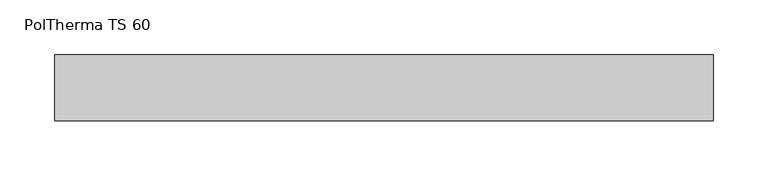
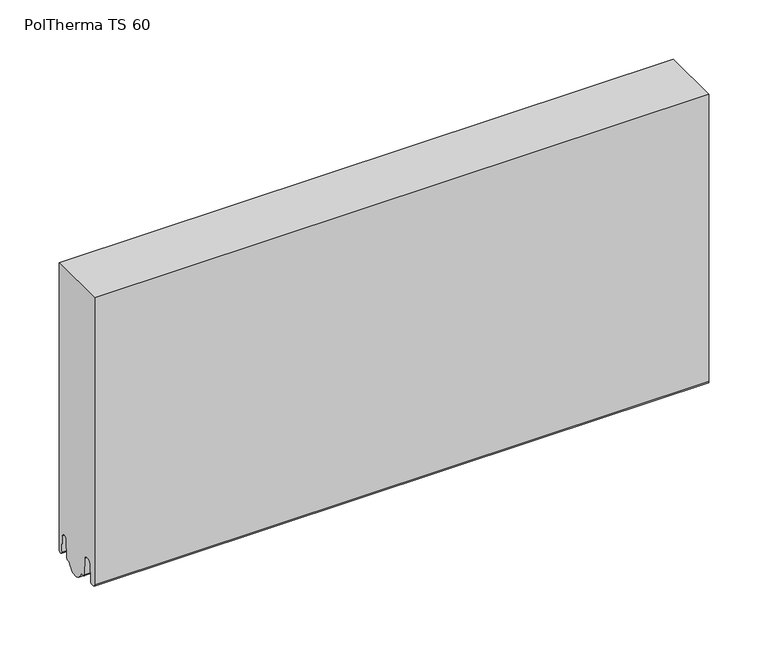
"""IFC4 building model written with IfcOpenShell, lengths in millimetres: plate geometry, Europanels_Poltherma TS_Hz : PolTherma TS 60."""

from ifc_helpers import new_model, si_unit, point, frame, frame_2d, origin, place, context, project, spatial, polyline, circle_curve, trimmed, segment, composite_curve, outline, extrude, source, transform, mapped, element, save


def poltherma_ts_60_3e408c3d(model_context):
    return source(origin(), model_context, "Body", "SweptSolid", [
        extrude(outline(composite_curve([segment(polyline([(-30.0, 300.0), (30.0, 300.0), (30.0, 3.8814338)]), True, "CONTINUOUS"), segment(trimmed(circle_curve(frame_2d((27.6314591, 3.8814338)), 2.3685409), [point((30.0, 3.8814338))], [point((25.2663769, 3.7534806))], False, "CARTESIAN"), True, "CONTINUOUS"), segment(polyline([(25.2663769, 3.7534806), (24.3282622, 21.093556)]), True, "CONTINUOUS"), segment(trimmed(circle_curve(frame_2d((21.0497285, 20.9161842)), 3.2833282), [point((24.3282622, 21.093556))], [point((17.7718427, 21.1051522))], True, "CARTESIAN"), True, "CONTINUOUS"), segment(polyline([(17.7718427, 21.1051522), (16.7366349, 3.1481762)]), True, "CONTINUOUS"), segment(trimmed(circle_curve(frame_2d((14.9895357, 3.2488953)), 1.75), [point((16.7366349, 3.1481762))], [point((14.9895357, 1.4988953))], False, "CARTESIAN"), True, "CONTINUOUS"), segment(polyline([(14.9895357, 1.4988953), (12.5267156, 1.4988953)]), True, "CONTINUOUS"), segment(trimmed(circle_curve(frame_2d((2.7, 3.3524487)), 10.0), [point((12.5267156, 1.4988953))], [point((-7.1267156, 1.4988953))], False, "CARTESIAN"), True, "CONTINUOUS"), segment(polyline([(-7.1267156, 1.4988953), (-10.5507777, 1.4988953)]), True, "CONTINUOUS"), segment(trimmed(circle_curve(frame_2d((-10.5507777, 3.2988953)), 1.8), [point((-10.5507777, 1.4988953))], [point((-12.3477941, 3.1952985))], False, "CARTESIAN"), True, "CONTINUOUS"), segment(polyline([(-12.3477941, 3.1952985), (-13.3842966, 21.1747334)]), True, "CONTINUOUS"), segment(trimmed(circle_curve(frame_2d((-16.3793238, 21.0020721)), 3.0), [point((-13.3842966, 21.1747334))], [point((-16.3793238, 24.0020721))], True, "CARTESIAN"), True, "CONTINUOUS"), segment(polyline([(-16.3793238, 24.0020721), (-19.3209015, 24.0020721)]), True, "CONTINUOUS"), segment(trimmed(circle_curve(frame_2d((-19.3209015, 21.0020721)), 3.0), [point((-19.3209015, 24.0020721))], [point((-22.3165207, 21.1641379))], True, "CARTESIAN"), True, "CONTINUOUS"), segment(polyline([(-22.3165207, 21.1641379), (-23.2780726, 3.3908514)]), True, "CONTINUOUS"), segment(trimmed(circle_curve(frame_2d((-25.2751521, 3.4988953)), 2.0), [point((-23.2780726, 3.3908514))], [point((-25.2751521, 1.4988953))], False, "CARTESIAN"), True, "CONTINUOUS"), segment(polyline([(-25.2751521, 1.4988953), (-28.0, 1.4988953)]), True, "CONTINUOUS"), segment(trimmed(circle_curve(frame_2d((-28.0, 3.4988953)), 2.0), [point((-28.0, 1.4988953))], [point((-30.0, 3.4988953))], False, "CARTESIAN"), True, "CONTINUOUS"), segment(polyline([(-30.0, 3.4988953), (-30.0, 300.0)]), True, "CONTINUOUS")], self_intersect=False)), frame((-300.0, 0.0, 0.0), z_axis=(1.0, 0.0, 0.0), x_axis=(0.0, 1.0, 0.0)), (0.0, 0.0, 1.0), 600.0),
    ])


if __name__ == "__main__":
    model = new_model("IFC4")
    model_context = context("Model", 3, world=origin())
    ifc_project = project(units=[si_unit("LENGTHUNIT", "METRE", prefix="MILLI")], contexts=[model_context])
    site = spatial("IfcSite", under=ifc_project)
    building = spatial("IfcBuilding", under=site)
    placement = place(None, origin())
    poltherma_ts_60_shape = poltherma_ts_60_3e408c3d(model_context)
    element("IfcPlate", 1, ObjectType="Europanels_Poltherma TS_Hz : PolTherma TS 60", at=placement, inside=building, context=model_context, shape_type="MappedRepresentation", body=[
        mapped(poltherma_ts_60_shape, transform((0.0, 0.0, 0.0), x_axis=(1.0, 0.0, 0.0), y_axis=(0.0, 1.0, 0.0), z_axis=(0.0, 0.0, 1.0))),
    ])
    save(model, "model.ifc")
